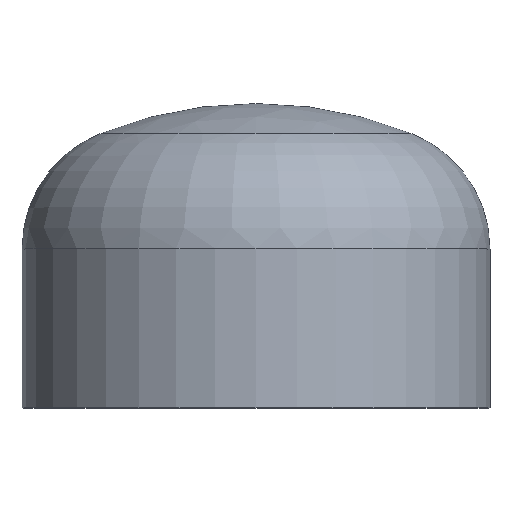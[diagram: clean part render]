
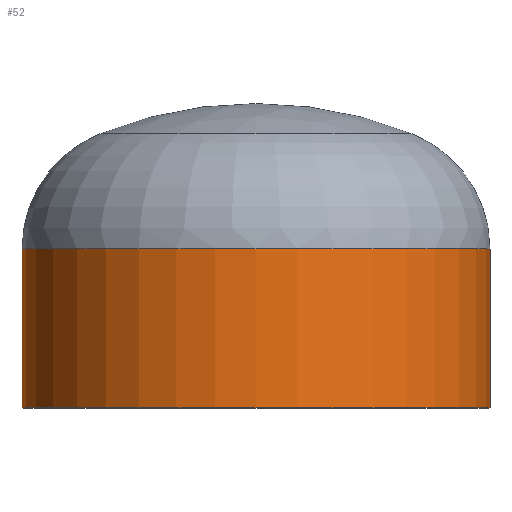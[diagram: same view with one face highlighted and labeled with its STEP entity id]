
A CAD part, top view. The second image highlights one B-rep face of the part: STEP entity #52.
In plain terms, the highlighted cylindrical face has radius 161.95 mm (diameter 323.9 mm), a partial arc.
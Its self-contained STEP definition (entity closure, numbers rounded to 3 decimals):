
#21 = AXIS2_PLACEMENT_3D ( 'NONE', #109, #306, #169 ) ;
#25 = ORIENTED_EDGE ( 'NONE', *, *, #81, .F. ) ;
#29 = LINE ( 'NONE', #376, #300 ) ;
#33 = CARTESIAN_POINT ( 'NONE',  ( 161.95, 0., 0. ) ) ;
#38 = VERTEX_POINT ( 'NONE', #342 ) ;
#52 = ADVANCED_FACE ( 'NONE', ( #160 ), #296, .T. ) ;
#63 = CIRCLE ( 'NONE', #21, 161.95 ) ;
#74 = AXIS2_PLACEMENT_3D ( 'NONE', #186, #233, #385 ) ;
#76 = AXIS2_PLACEMENT_3D ( 'NONE', #145, #140, #135 ) ;
#81 = EDGE_CURVE ( 'NONE', #38, #157, #364, .T. ) ;
#82 = CARTESIAN_POINT ( 'NONE',  ( 161.95, 0., 0. ) ) ;
#85 = EDGE_CURVE ( 'NONE', #157, #88, #250, .T. ) ;
#88 = VERTEX_POINT ( 'NONE', #187 ) ;
#95 = ORIENTED_EDGE ( 'NONE', *, *, #85, .F. ) ;
#106 = VERTEX_POINT ( 'NONE', #237 ) ;
#109 = CARTESIAN_POINT ( 'NONE',  ( 0., 110., 0. ) ) ;
#110 = ORIENTED_EDGE ( 'NONE', *, *, #333, .T. ) ;
#135 = DIRECTION ( 'NONE',  ( 1., 0., 0. ) ) ;
#140 = DIRECTION ( 'NONE',  ( 0., -1., 0. ) ) ;
#145 = CARTESIAN_POINT ( 'NONE',  ( 0., 0., 0. ) ) ;
#154 = ORIENTED_EDGE ( 'NONE', *, *, #316, .T. ) ;
#157 = VERTEX_POINT ( 'NONE', #33 ) ;
#160 = FACE_OUTER_BOUND ( 'NONE', #368, .T. ) ;
#169 = DIRECTION ( 'NONE',  ( 1., 0., 0. ) ) ;
#186 = CARTESIAN_POINT ( 'NONE',  ( 0., 0., 0. ) ) ;
#187 = CARTESIAN_POINT ( 'NONE',  ( -161.95, 0., 0. ) ) ;
#233 = DIRECTION ( 'NONE',  ( 0., -1., 0. ) ) ;
#237 = CARTESIAN_POINT ( 'NONE',  ( -161.95, 110., 0. ) ) ;
#240 = DIRECTION ( 'NONE',  ( 0., -1., 0. ) ) ;
#242 = VECTOR ( 'NONE', #404, 1000. ) ;
#250 = CIRCLE ( 'NONE', #76, 161.95 ) ;
#296 = CYLINDRICAL_SURFACE ( 'NONE', #74, 161.95 ) ;
#300 = VECTOR ( 'NONE', #240, 1000. ) ;
#306 = DIRECTION ( 'NONE',  ( 0., -1., 0. ) ) ;
#316 = EDGE_CURVE ( 'NONE', #38, #106, #63, .T. ) ;
#333 = EDGE_CURVE ( 'NONE', #106, #88, #29, .T. ) ;
#342 = CARTESIAN_POINT ( 'NONE',  ( 161.95, 110., 0. ) ) ;
#364 = LINE ( 'NONE', #82, #242 ) ;
#368 = EDGE_LOOP ( 'NONE', ( #154, #110, #95, #25 ) ) ;
#376 = CARTESIAN_POINT ( 'NONE',  ( -161.95, 0., 0. ) ) ;
#385 = DIRECTION ( 'NONE',  ( 1., 0., 0. ) ) ;
#404 = DIRECTION ( 'NONE',  ( 0., -1., 0. ) ) ;
